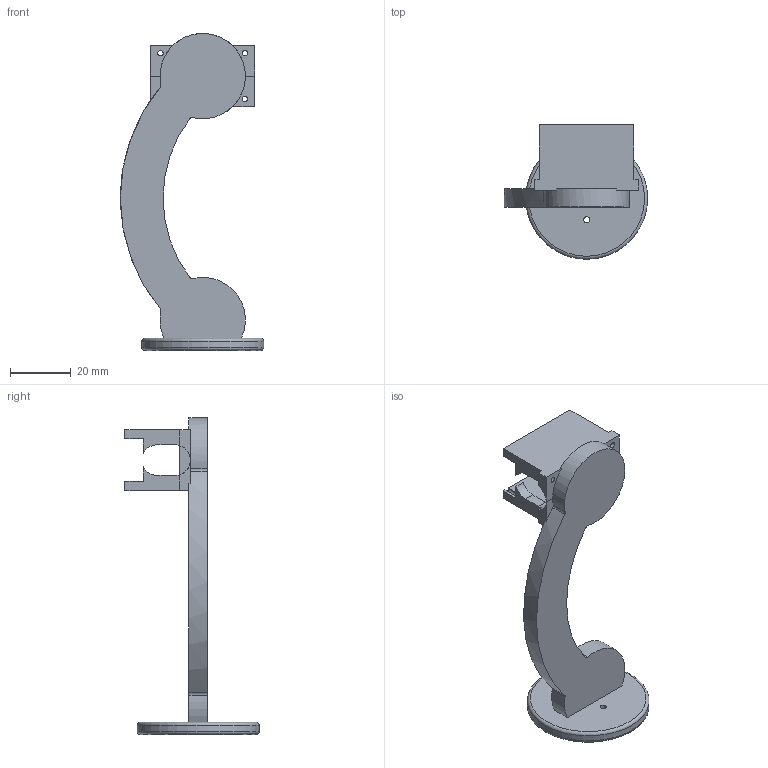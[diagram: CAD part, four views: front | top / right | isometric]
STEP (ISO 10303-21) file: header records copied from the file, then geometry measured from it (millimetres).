
FILE_DESCRIPTION(('Open CASCADE Model'),'2;1');
FILE_NAME('Open CASCADE Shape Model','2026-08-28T14:41:53',('Author'),( 'Open CASCADE'),'Open CASCADE STEP processor 7.8','Open CASCADE 7.8' ,'Unknown');
FILE_SCHEMA(('AUTOMOTIVE_DESIGN { 1 0 10303 214 1 1 1 1 }'));
Length unit declared in the file: millimetre
Products named in the file (1): Open CASCADE STEP translator 7.8 1
Bounding box: 47 x 44 x 103.98 mm (x, y, z)
Volume: 22283.6 mm3; surface area: 12197.9 mm2
Topology: 1 solids, 1 shells, 77 faces, 216 edges, 142 vertices
Faces by surface type: plane 50, cylinder 21, bspline 4, torus 2
Full cylindrical faces by diameter (mm): 1.8 x4, 2 x4, 3.2 x1, 40 x1
Entity records: 5547 total; most frequent: CARTESIAN_POINT 1446, DIRECTION 695, ORIENTED_EDGE 432, PCURVE 432, DEFINITIONAL_REPRESENTATION 432, LINE 344, VECTOR 344, EDGE_CURVE 216
